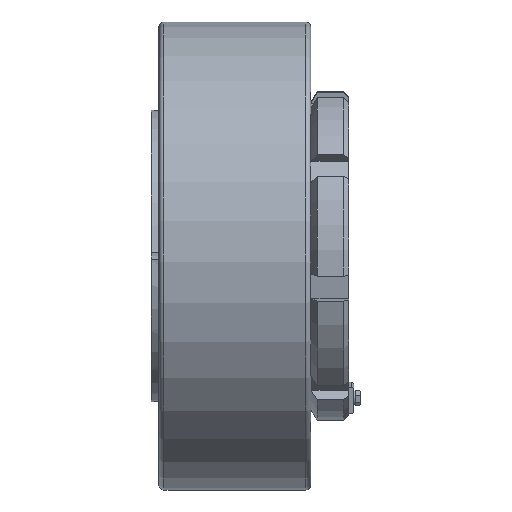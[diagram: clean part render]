
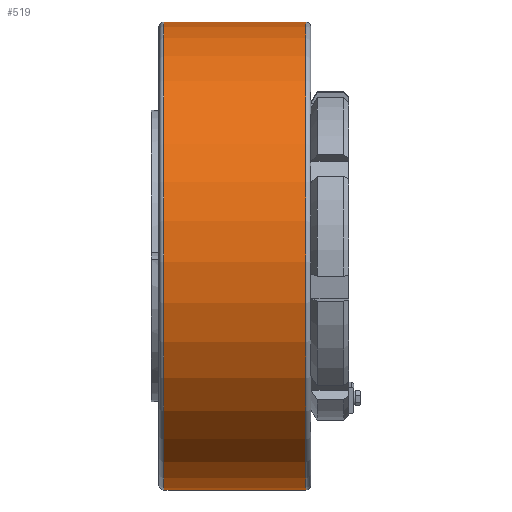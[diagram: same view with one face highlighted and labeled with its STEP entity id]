
A CAD part, front view. The second image highlights one B-rep face of the part: STEP entity #519.
In plain terms, the highlighted cylindrical face has radius 185 mm (diameter 370 mm), a full revolution.
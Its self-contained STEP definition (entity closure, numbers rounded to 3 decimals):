
#519 = ADVANCED_FACE( '', ( #1155, #1156 ), #1157, .T. );
#1155 = FACE_OUTER_BOUND( '', #1907, .T. );
#1156 = FACE_OUTER_BOUND( '', #1908, .T. );
#1157 = CYLINDRICAL_SURFACE( '', #1909, 185. );
#1907 = EDGE_LOOP( '', ( #4018 ) );
#1908 = EDGE_LOOP( '', ( #4019 ) );
#1909 = AXIS2_PLACEMENT_3D( '', #4020, #4021, #4022 );
#4018 = ORIENTED_EDGE( '', *, *, #5414, .T. );
#4019 = ORIENTED_EDGE( '', *, *, #5413, .F. );
#4020 = CARTESIAN_POINT( '', ( 0., 0., 0. ) );
#4021 = DIRECTION( '', ( -1., 0., 0. ) );
#4022 = DIRECTION( '', ( 0., 0., -1. ) );
#5413 = EDGE_CURVE( '', #6659, #6659, #6660, .T. );
#5414 = EDGE_CURVE( '', #6661, #6661, #6662, .T. );
#6659 = VERTEX_POINT( '', #8674 );
#6660 = CIRCLE( '', #8675, 185. );
#6661 = VERTEX_POINT( '', #8676 );
#6662 = CIRCLE( '', #8677, 185. );
#8674 = CARTESIAN_POINT( '', ( -40., 0., -185. ) );
#8675 = AXIS2_PLACEMENT_3D( '', #10196, #10197, #10198 );
#8676 = CARTESIAN_POINT( '', ( -152., 0., -185. ) );
#8677 = AXIS2_PLACEMENT_3D( '', #10199, #10200, #10201 );
#10196 = CARTESIAN_POINT( '', ( -40., 0., 0. ) );
#10197 = DIRECTION( '', ( 1., 0., 0. ) );
#10198 = DIRECTION( '', ( 0., 0., -1. ) );
#10199 = CARTESIAN_POINT( '', ( -152., 0., 0. ) );
#10200 = DIRECTION( '', ( 1., 0., 0. ) );
#10201 = DIRECTION( '', ( 0., 0., -1. ) );
